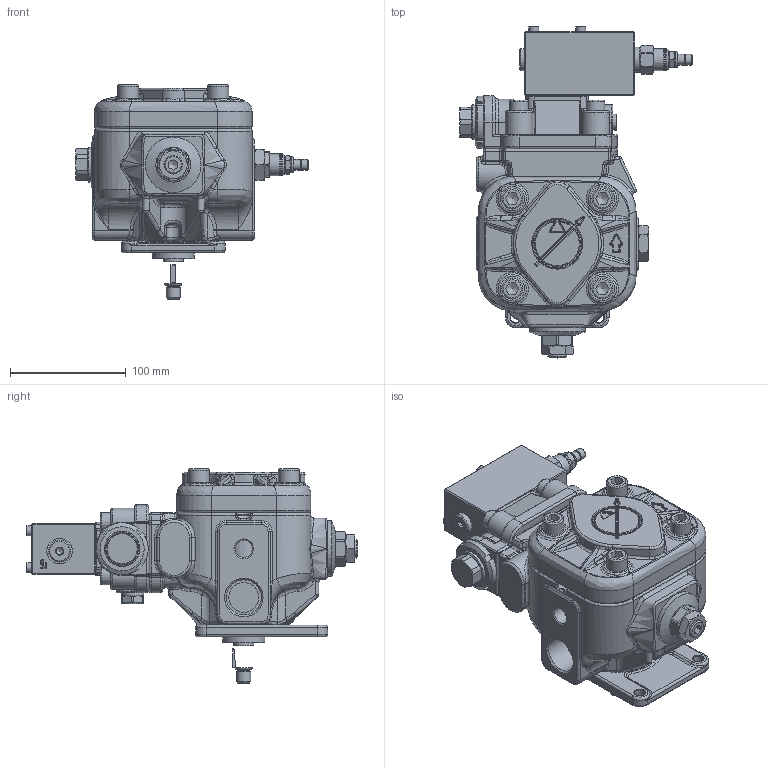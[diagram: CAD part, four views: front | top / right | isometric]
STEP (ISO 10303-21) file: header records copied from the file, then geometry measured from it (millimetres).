
FILE_DESCRIPTION(/* description */ (''),/* implementation_level */ '2;1');
FILE_NAME(/* name */ 'W:\Tecnico\Archivio\Berarma\Dimensioni Pompe\3D Export\Montaggio 3D semplificato\PLP-PHP 05\PHP05 FGR2HRM PCS003.stp',/* time_stamp */ '2018-10-10T14:54:44+02:00',/* author */ ('marcop'),/* organization */ (''),/* preprocessor_version */ 'ST-DEVELOPER v17',/* originating_system */ 'Autodesk Inventor 2018',/* authorisation */ '');
FILE_SCHEMA (('AUTOMOTIVE_DESIGN { 1 0 10303 214 3 1 1 }'));
Products named in the file (1): PHP05_Shrinkwrap_1
Bounding box: 200.95 x 286.6 x 185 mm (x, y, z)
Volume: 2246129.4 mm3; surface area: 240339.4 mm2
Topology: 2 solids, 2 shells, 2088 faces, 5259 edges, 3196 vertices
Faces by surface type: plane 709, cylinder 462, bspline 386, torus 242, cone 234, sphere 55
Full cylindrical faces by diameter (mm): 0.9 x3, 1.7 x4, 2.5 x1, 4 x1, 4.134 x2, 5.5 x2, 6 x3, 6.5 x4, 7.2 x1, 7.671 x2, 8.5 x6, 8.566 x2, 9 x8, 9.347 x2, 9.5 x1, 10.25 x1, 11.445 x1, 12 x5, 13 x1, 13.487 x1, 13.5 x1, 13.767 x2, 14 x3, 14.224 x1, 14.5 x1, 14.63 x1, 14.95 x1, 15 x1, 15.5 x1, 16 x7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
Entity records: 77089 total; most frequent: CARTESIAN_POINT 27544, ORIENTED_EDGE 10318, DIRECTION 9543, EDGE_CURVE 5159, AXIS2_PLACEMENT_3D 3839, VERTEX_POINT 3196, EDGE_LOOP 2225, STYLED_ITEM 2090
